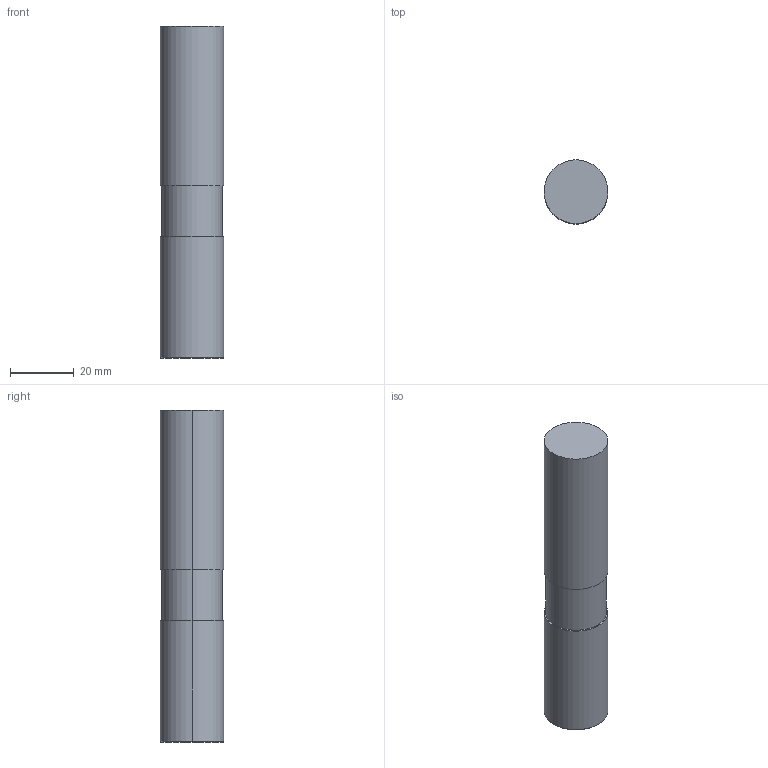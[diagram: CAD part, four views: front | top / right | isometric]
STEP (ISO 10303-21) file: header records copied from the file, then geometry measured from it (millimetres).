
FILE_DESCRIPTION(('STEP AP214'),'1');
FILE_NAME('cctmp_4052FC1B-C156-4183-83BD-E39345377C25_2020_09_30_15_48_05_0783..stp','2020-09-30T13:48:05',('Meusburger Georg GmbH & Co KG'),('CADClick - www.CADClick.com'),'Spatial InterOp 3D',' ','unknown authorization');
FILE_SCHEMA(('AUTOMOTIVE_DESIGN { 1 0 10303 214 1 1 1 1 }'));
Length unit declared in the file: millimetre
Products named in the file (1): WZF 122483_20
Bounding box: 20 x 20 x 104 mm (x, y, z)
Volume: 32180.7 mm3; surface area: 7164.9 mm2
Topology: 1 solids, 1 shells, 12 faces, 22 edges, 14 vertices
Faces by surface type: cylinder 6, plane 4, cone 2
Entity records: 424 total; most frequent: DIRECTION 62, CARTESIAN_POINT 49, ORIENTED_EDGE 44, AXIS2_PLACEMENT_3D 27, EDGE_CURVE 22, EDGE_LOOP 14, VERTEX_POINT 14, CIRCLE 14
